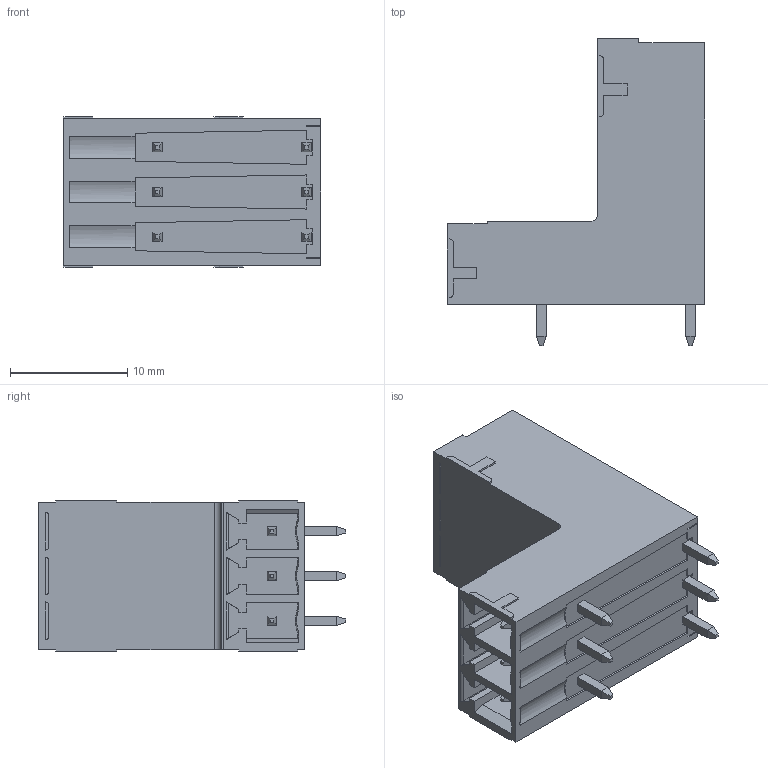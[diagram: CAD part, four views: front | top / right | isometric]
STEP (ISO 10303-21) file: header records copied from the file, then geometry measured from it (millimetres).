
FILE_DESCRIPTION((''),'2;1');
FILE_NAME('3PIN_SW0001','2019-06-04T',('zhenbing.lai'),(''),'CREO PARAMETRIC BY PTC INC, 2016260','CREO PARAMETRIC BY PTC INC, 2016260','');
FILE_SCHEMA(('CONFIG_CONTROL_DESIGN'));
Length unit declared in the file: millimetre
Products named in the file (1): 3PIN_SW0001
Bounding box: 21.9 x 26.2 x 12.82 mm (x, y, z)
Volume: 3370 mm3; surface area: 2274 mm2
Topology: 1 solids, 1 shells, 292 faces, 749 edges, 483 vertices
Faces by surface type: plane 268, cylinder 21, cone 3
Entity records: 8729 total; most frequent: CARTESIAN_POINT 1614, ORIENTED_EDGE 1498, DIRECTION 1351, EDGE_CURVE 749, VECTOR 695, LINE 695, VERTEX_POINT 483, AXIS2_PLACEMENT_3D 328
